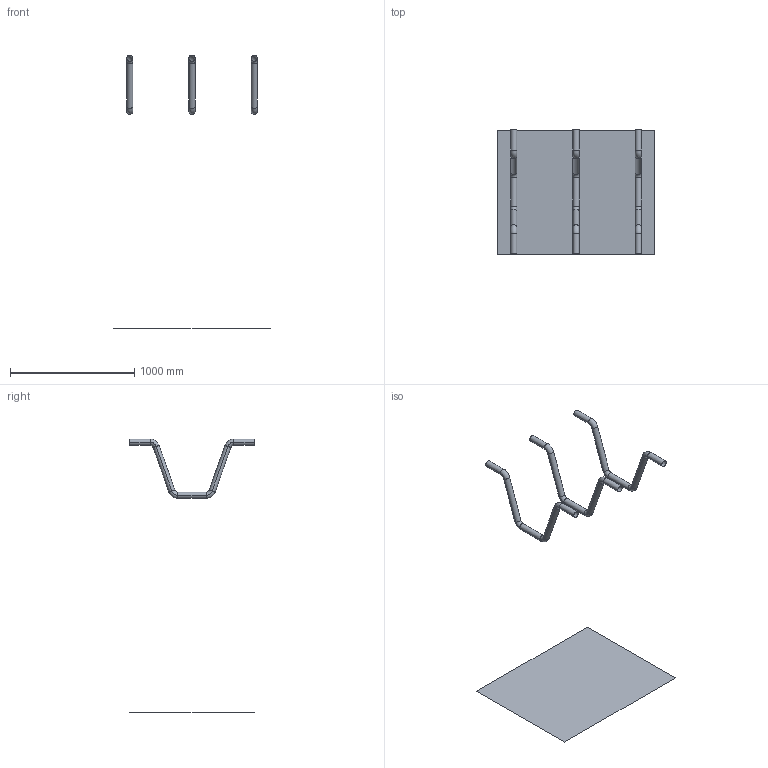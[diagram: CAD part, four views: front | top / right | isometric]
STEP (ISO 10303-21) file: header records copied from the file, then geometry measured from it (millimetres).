
FILE_DESCRIPTION(('CATIA V5 STEP Exchange'),'2;1');
FILE_NAME('C:\_Andres\UNIVERSIDAD\IQS\ASIGNATURAS\DAO\EXF\EXF-16172c\2inicio\Rabat_Riba_Ej08_v26.stp','2017-03-05T21:54:56+00:00',('none'),('none'),'CATIA Version 5-6 Release 2014 SP1 HF18','CATIA V5 STEP AP203','none');
FILE_SCHEMA(('CONFIG_CONTROL_DESIGN'));
Length unit declared in the file: millimetre
Products named in the file (1): Rabat_Riba_Ej08_v26
Bounding box: 1260 x 1000 x 2199 mm (x, y, z)
Surface area: 1998193.3 mm2 (no closed solid volume)
Topology: 0 solids, 4 shells, 55 faces, 118 edges, 64 vertices
Faces by surface type: cylinder 30, torus 24, plane 1
Entity records: 1283 total; most frequent: ORIENTED_EDGE 220, CARTESIAN_POINT 208, DIRECTION 168, EDGE_CURVE 118, AXIS2_PLACEMENT_3D 110, CIRCLE 84, VERTEX_POINT 64, ADVANCED_FACE 55
